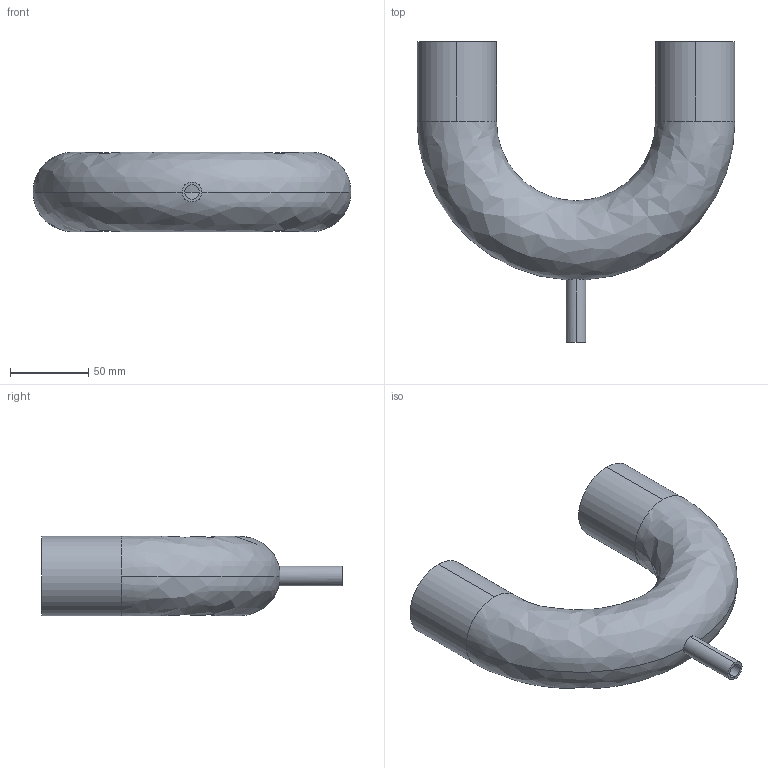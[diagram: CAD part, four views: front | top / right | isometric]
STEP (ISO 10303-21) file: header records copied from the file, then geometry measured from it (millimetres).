
FILE_DESCRIPTION (( 'STEP AP214' ), '1' );
FILE_NAME ('TE2UBWWW6L2.0x.5-...STEP', '2016-05-25T05:27:15', ( 'eran' ), ( '' ), 'SwSTEP 2.0', 'SolidWorks 2016', '' );
FILE_SCHEMA (( 'AUTOMOTIVE_DESIGN' ));
Length unit declared in the file: millimetre
Products named in the file (1): TE2UBWWW6L2.0x.5-..
Bounding box: 203.2 x 192.1 x 50.8 mm (x, y, z)
Volume: 89056.7 mm3; surface area: 108506.7 mm2
Topology: 1 solids, 1 shells, 19 faces, 54 edges, 36 vertices
Faces by surface type: cylinder 12, bspline 4, plane 3
Entity records: 868 total; most frequent: CARTESIAN_POINT 326, DIRECTION 112, ORIENTED_EDGE 108, EDGE_CURVE 54, AXIS2_PLACEMENT_3D 50, VERTEX_POINT 36, CIRCLE 34, EDGE_LOOP 22
